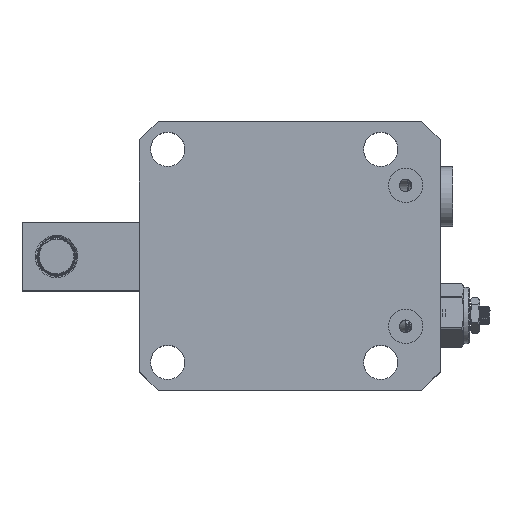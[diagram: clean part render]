
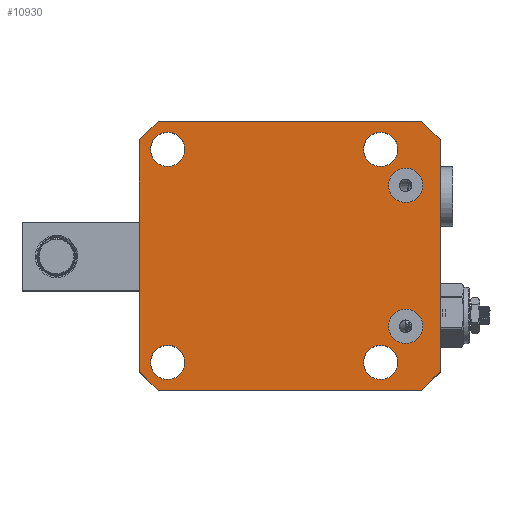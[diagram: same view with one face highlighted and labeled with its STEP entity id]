
A CAD part, top view. The second image highlights one B-rep face of the part: STEP entity #10930.
In plain terms, the highlighted planar face has unit normal (0, 0, 1).
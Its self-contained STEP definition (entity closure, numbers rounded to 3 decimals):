
#1635=FACE_BOUND('',#2512,.T.);
#1636=FACE_BOUND('',#2513,.T.);
#1637=FACE_BOUND('',#2514,.T.);
#1638=FACE_BOUND('',#2515,.T.);
#1639=FACE_BOUND('',#2516,.T.);
#1640=FACE_BOUND('',#2517,.T.);
#1713=PLANE('',#11883);
#1914=FACE_OUTER_BOUND('',#2511,.T.);
#2511=EDGE_LOOP('',(#7960,#7961,#7962,#7963,#7964,#7965,#7966,#7967));
#2512=EDGE_LOOP('',(#7968));
#2513=EDGE_LOOP('',(#7969));
#2514=EDGE_LOOP('',(#7970));
#2515=EDGE_LOOP('',(#7971));
#2516=EDGE_LOOP('',(#7972));
#2517=EDGE_LOOP('',(#7973));
#3177=LINE('',#17020,#3808);
#3178=LINE('',#17022,#3809);
#3179=LINE('',#17024,#3810);
#3180=LINE('',#17026,#3811);
#3181=LINE('',#17028,#3812);
#3182=LINE('',#17030,#3813);
#3183=LINE('',#17032,#3814);
#3184=LINE('',#17033,#3815);
#3808=VECTOR('',#12842,1000.);
#3809=VECTOR('',#12843,1000.);
#3810=VECTOR('',#12844,1000.);
#3811=VECTOR('',#12845,1000.);
#3812=VECTOR('',#12846,1000.);
#3813=VECTOR('',#12847,1000.);
#3814=VECTOR('',#12848,1000.);
#3815=VECTOR('',#12849,1000.);
#4385=CIRCLE('',#11843,5.5);
#4387=CIRCLE('',#11846,5.5);
#4389=CIRCLE('',#11849,5.5);
#4391=CIRCLE('',#11852,5.5);
#4393=CIRCLE('',#11855,5.5);
#4395=CIRCLE('',#11858,5.5);
#4691=VERTEX_POINT('',#16222);
#4693=VERTEX_POINT('',#16228);
#4695=VERTEX_POINT('',#16234);
#4697=VERTEX_POINT('',#16240);
#4699=VERTEX_POINT('',#16246);
#4701=VERTEX_POINT('',#16252);
#4741=VERTEX_POINT('',#17018);
#4742=VERTEX_POINT('',#17019);
#4743=VERTEX_POINT('',#17021);
#4744=VERTEX_POINT('',#17023);
#4745=VERTEX_POINT('',#17025);
#4746=VERTEX_POINT('',#17027);
#4747=VERTEX_POINT('',#17029);
#4748=VERTEX_POINT('',#17031);
#6049=EDGE_CURVE('',#4691,#4691,#4385,.T.);
#6052=EDGE_CURVE('',#4693,#4693,#4387,.T.);
#6055=EDGE_CURVE('',#4695,#4695,#4389,.T.);
#6058=EDGE_CURVE('',#4697,#4697,#4391,.T.);
#6061=EDGE_CURVE('',#4699,#4699,#4393,.T.);
#6064=EDGE_CURVE('',#4701,#4701,#4395,.T.);
#6129=EDGE_CURVE('',#4741,#4742,#3177,.T.);
#6130=EDGE_CURVE('',#4742,#4743,#3178,.T.);
#6131=EDGE_CURVE('',#4743,#4744,#3179,.T.);
#6132=EDGE_CURVE('',#4744,#4745,#3180,.T.);
#6133=EDGE_CURVE('',#4745,#4746,#3181,.T.);
#6134=EDGE_CURVE('',#4746,#4747,#3182,.T.);
#6135=EDGE_CURVE('',#4747,#4748,#3183,.T.);
#6136=EDGE_CURVE('',#4748,#4741,#3184,.T.);
#7960=ORIENTED_EDGE('',*,*,#6129,.T.);
#7961=ORIENTED_EDGE('',*,*,#6130,.T.);
#7962=ORIENTED_EDGE('',*,*,#6131,.T.);
#7963=ORIENTED_EDGE('',*,*,#6132,.T.);
#7964=ORIENTED_EDGE('',*,*,#6133,.T.);
#7965=ORIENTED_EDGE('',*,*,#6134,.T.);
#7966=ORIENTED_EDGE('',*,*,#6135,.T.);
#7967=ORIENTED_EDGE('',*,*,#6136,.T.);
#7968=ORIENTED_EDGE('',*,*,#6049,.F.);
#7969=ORIENTED_EDGE('',*,*,#6052,.F.);
#7970=ORIENTED_EDGE('',*,*,#6055,.T.);
#7971=ORIENTED_EDGE('',*,*,#6058,.T.);
#7972=ORIENTED_EDGE('',*,*,#6061,.T.);
#7973=ORIENTED_EDGE('',*,*,#6064,.T.);
#10930=ADVANCED_FACE('',(#1914,#1635,#1636,#1637,#1638,#1639,#1640),#1713,
 .T.);
#11843=AXIS2_PLACEMENT_3D('',#16224,#12745,#12746);
#11846=AXIS2_PLACEMENT_3D('',#16230,#12752,#12753);
#11849=AXIS2_PLACEMENT_3D('',#16236,#12759,#12760);
#11852=AXIS2_PLACEMENT_3D('',#16242,#12766,#12767);
#11855=AXIS2_PLACEMENT_3D('',#16248,#12773,#12774);
#11858=AXIS2_PLACEMENT_3D('',#16254,#12780,#12781);
#11883=AXIS2_PLACEMENT_3D('',#17017,#12840,#12841);
#12745=DIRECTION('center_axis',(0.,0.,1.));
#12746=DIRECTION('ref_axis',(1.,0.,0.));
#12752=DIRECTION('center_axis',(0.,0.,1.));
#12753=DIRECTION('ref_axis',(1.,0.,0.));
#12759=DIRECTION('center_axis',(0.,0.,
-1.));
#12760=DIRECTION('ref_axis',(0.,-1.,0.));
#12766=DIRECTION('center_axis',(0.,0.,-1.));
#12767=DIRECTION('ref_axis',(0.,-1.,0.));
#12773=DIRECTION('center_axis',(0.,0.,-1.));
#12774=DIRECTION('ref_axis',(0.,-1.,0.));
#12780=DIRECTION('center_axis',(0.,0.,
-1.));
#12781=DIRECTION('ref_axis',(0.,-1.,0.));
#12840=DIRECTION('center_axis',(0.,0.,1.));
#12841=DIRECTION('ref_axis',(1.,0.,0.));
#12842=DIRECTION('',(1.,0.,0.));
#12843=DIRECTION('',(0.707,0.707,0.));
#12844=DIRECTION('',(0.,1.,0.));
#12845=DIRECTION('',(-0.707,0.707,0.));
#12846=DIRECTION('',(-1.,0.,0.));
#12847=DIRECTION('',(-0.707,-0.707,0.));
#12848=DIRECTION('',(0.,-1.,0.));
#12849=DIRECTION('',(0.707,-0.707,0.));
#16222=CARTESIAN_POINT('',(36.5,-22.5,47.5));
#16224=CARTESIAN_POINT('Origin',(42.,-22.5,47.5));
#16228=CARTESIAN_POINT('',(36.5,22.5,47.5));
#16230=CARTESIAN_POINT('Origin',(42.,22.5,47.5));
#16234=CARTESIAN_POINT('',(-34.,39.5,47.5));
#16236=CARTESIAN_POINT('Origin',(-34.,34.,47.5));
#16240=CARTESIAN_POINT('',(34.,39.5,47.5));
#16242=CARTESIAN_POINT('Origin',(34.,34.,47.5));
#16246=CARTESIAN_POINT('',(34.,-28.5,47.5));
#16248=CARTESIAN_POINT('Origin',(34.,-34.,47.5));
#16252=CARTESIAN_POINT('',(-34.,-28.5,47.5));
#16254=CARTESIAN_POINT('Origin',(-34.,-34.,47.5));
#17017=CARTESIAN_POINT('Origin',(-43.,-43.,47.5));
#17018=CARTESIAN_POINT('',(-37.,-43.,47.5));
#17019=CARTESIAN_POINT('',(47.,-43.,47.5));
#17020=CARTESIAN_POINT('',(-43.,-43.,47.5));
#17021=CARTESIAN_POINT('',(53.,-37.,47.5));
#17022=CARTESIAN_POINT('',(47.,-43.,47.5));
#17023=CARTESIAN_POINT('',(53.,37.,47.5));
#17024=CARTESIAN_POINT('',(53.,-43.,47.5));
#17025=CARTESIAN_POINT('',(47.,43.,47.5));
#17026=CARTESIAN_POINT('',(53.,37.,47.5));
#17027=CARTESIAN_POINT('',(-37.,43.,47.5));
#17028=CARTESIAN_POINT('',(-43.,43.,47.5));
#17029=CARTESIAN_POINT('',(-43.,37.,47.5));
#17030=CARTESIAN_POINT('',(-37.,43.,47.5));
#17031=CARTESIAN_POINT('',(-43.,-37.,47.5));
#17032=CARTESIAN_POINT('',(-43.,-43.,47.5));
#17033=CARTESIAN_POINT('',(-43.,-37.,47.5));
